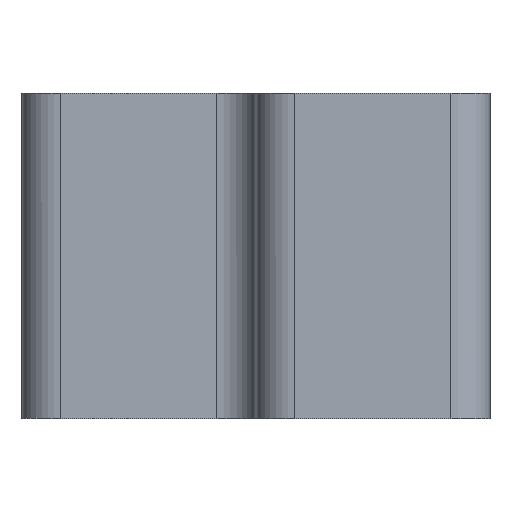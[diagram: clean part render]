
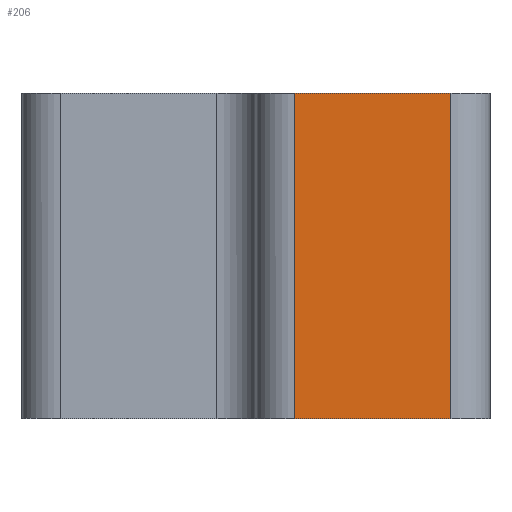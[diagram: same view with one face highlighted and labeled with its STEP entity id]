
A CAD part, front view. The second image highlights one B-rep face of the part: STEP entity #206.
In plain terms, the highlighted planar face has unit normal (0, -1, 0).
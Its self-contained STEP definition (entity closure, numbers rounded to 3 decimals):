
#162=FACE_OUTER_BOUND('',#535,.T.);
#206=ADVANCED_FACE('',(#162),#283,.T.);
#283=PLANE('',#1459);
#315=LINE('',#2041,#374);
#318=LINE('',#2138,#377);
#319=LINE('',#2140,#378);
#320=LINE('',#2142,#379);
#374=VECTOR('',#1598,1.);
#377=VECTOR('',#1617,1.);
#378=VECTOR('',#1618,1.);
#379=VECTOR('',#1619,1.);
#535=EDGE_LOOP('',(#692,#693,#694,#695));
#692=ORIENTED_EDGE('',*,*,#1122,.T.);
#693=ORIENTED_EDGE('',*,*,#1145,.T.);
#694=ORIENTED_EDGE('',*,*,#1146,.T.);
#695=ORIENTED_EDGE('',*,*,#1147,.T.);
#997=VERTEX_POINT('',#2040);
#998=VERTEX_POINT('',#2042);
#1020=VERTEX_POINT('',#2139);
#1021=VERTEX_POINT('',#2141);
#1122=EDGE_CURVE('',#998,#997,#315,.T.);
#1145=EDGE_CURVE('',#997,#1020,#318,.T.);
#1146=EDGE_CURVE('',#1020,#1021,#319,.T.);
#1147=EDGE_CURVE('',#1021,#998,#320,.T.);
#1459=AXIS2_PLACEMENT_3D('',#2143,#1620,#1621);
#1598=DIRECTION('',(-1.,0.,0.));
#1617=DIRECTION('',(0.,0.,-1.));
#1618=DIRECTION('',(1.,0.,0.));
#1619=DIRECTION('',(0.,0.,1.));
#1620=DIRECTION('',(0.,-1.,0.));
#1621=DIRECTION('',(0.,0.,-1.));
#2040=CARTESIAN_POINT('',(21.,0.,25.));
#2041=CARTESIAN_POINT('',(18.,0.,25.));
#2042=CARTESIAN_POINT('',(33.,0.,25.));
#2138=CARTESIAN_POINT('',(21.,0.,0.));
#2139=CARTESIAN_POINT('',(21.,0.,0.));
#2140=CARTESIAN_POINT('',(18.,0.,0.));
#2141=CARTESIAN_POINT('',(33.,0.,0.));
#2142=CARTESIAN_POINT('',(33.,0.,0.));
#2143=CARTESIAN_POINT('',(18.,0.,0.));
